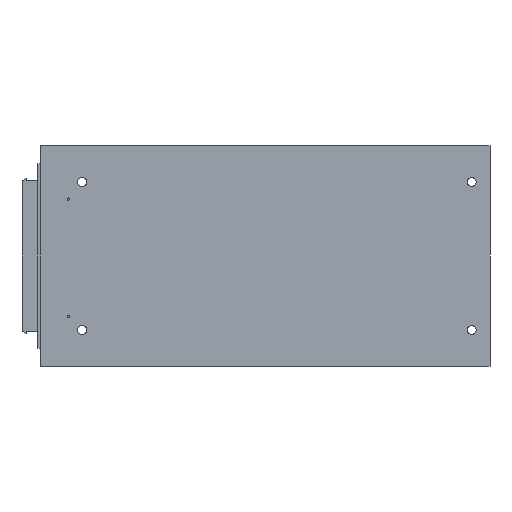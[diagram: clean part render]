
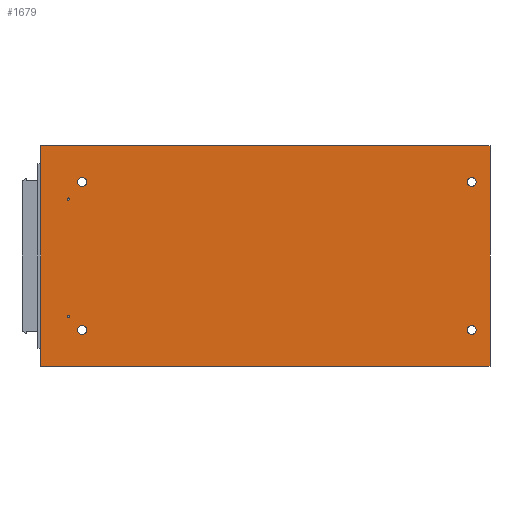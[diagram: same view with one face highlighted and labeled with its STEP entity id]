
A CAD part, front view. The second image highlights one B-rep face of the part: STEP entity #1679.
In plain terms, the highlighted planar face has unit normal (0, -1, 0).
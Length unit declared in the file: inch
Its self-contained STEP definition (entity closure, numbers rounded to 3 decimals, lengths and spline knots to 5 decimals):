
#145=DIRECTION('',(0.,0.,-1.));
#146=VECTOR('',#145,3.);
#147=CARTESIAN_POINT('',(0.,0.,0.));
#148=LINE('',#147,#146);
#149=DIRECTION('',(-1.,0.,0.));
#150=VECTOR('',#149,6.12063);
#151=CARTESIAN_POINT('',(6.12063,0.,0.));
#152=LINE('',#151,#150);
#153=DIRECTION('',(0.,0.,1.));
#154=VECTOR('',#153,3.);
#155=CARTESIAN_POINT('',(6.12063,0.,-3.));
#156=LINE('',#155,#154);
#157=DIRECTION('',(1.,0.,0.));
#158=VECTOR('',#157,6.12063);
#159=CARTESIAN_POINT('',(0.,0.,-3.));
#160=LINE('',#159,#158);
#161=CARTESIAN_POINT('',(5.87063,0.,-2.508));
#162=DIRECTION('',(0.,1.,0.));
#163=DIRECTION('',(0.,0.,-1.));
#164=AXIS2_PLACEMENT_3D('',#161,#162,#163);
#166=CARTESIAN_POINT('',(5.87063,0.,-2.508));
#167=DIRECTION('',(0.,1.,0.));
#168=DIRECTION('',(0.,0.,1.));
#169=AXIS2_PLACEMENT_3D('',#166,#167,#168);
#171=CARTESIAN_POINT('',(5.87063,0.,-0.492));
#172=DIRECTION('',(0.,1.,0.));
#173=DIRECTION('',(0.,0.,-1.));
#174=AXIS2_PLACEMENT_3D('',#171,#172,#173);
#176=CARTESIAN_POINT('',(5.87063,0.,-0.492));
#177=DIRECTION('',(0.,1.,0.));
#178=DIRECTION('',(0.,0.,1.));
#179=AXIS2_PLACEMENT_3D('',#176,#177,#178);
#181=CARTESIAN_POINT('',(0.56463,0.,-0.492));
#182=DIRECTION('',(0.,1.,0.));
#183=DIRECTION('',(0.,0.,1.));
#184=AXIS2_PLACEMENT_3D('',#181,#182,#183);
#186=CARTESIAN_POINT('',(0.56463,0.,-0.492));
#187=DIRECTION('',(0.,1.,0.));
#188=DIRECTION('',(0.,0.,-1.));
#189=AXIS2_PLACEMENT_3D('',#186,#187,#188);
#191=CARTESIAN_POINT('',(0.56463,0.,-2.508));
#192=DIRECTION('',(0.,1.,0.));
#193=DIRECTION('',(0.,0.,1.));
#194=AXIS2_PLACEMENT_3D('',#191,#192,#193);
#196=CARTESIAN_POINT('',(0.56463,0.,-2.508));
#197=DIRECTION('',(0.,1.,0.));
#198=DIRECTION('',(0.,0.,-1.));
#199=AXIS2_PLACEMENT_3D('',#196,#197,#198);
#201=CARTESIAN_POINT('',(0.375,0.,-2.325));
#202=DIRECTION('',(0.,-1.,0.));
#203=DIRECTION('',(0.,0.,-1.));
#204=AXIS2_PLACEMENT_3D('',#201,#202,#203);
#206=CARTESIAN_POINT('',(0.375,0.,-2.325));
#207=DIRECTION('',(0.,-1.,0.));
#208=DIRECTION('',(0.,0.,1.));
#209=AXIS2_PLACEMENT_3D('',#206,#207,#208);
#211=CARTESIAN_POINT('',(0.375,0.,-0.725));
#212=DIRECTION('',(0.,-1.,0.));
#213=DIRECTION('',(0.,0.,-1.));
#214=AXIS2_PLACEMENT_3D('',#211,#212,#213);
#216=CARTESIAN_POINT('',(0.375,0.,-0.725));
#217=DIRECTION('',(0.,-1.,0.));
#218=DIRECTION('',(0.,0.,1.));
#219=AXIS2_PLACEMENT_3D('',#216,#217,#218);
#1121=CARTESIAN_POINT('',(0.,0.,0.));
#1122=CARTESIAN_POINT('',(0.,0.,-3.));
#1123=VERTEX_POINT('',#1121);
#1124=VERTEX_POINT('',#1122);
#1125=CARTESIAN_POINT('',(6.12063,0.,-3.));
#1126=VERTEX_POINT('',#1125);
#1127=CARTESIAN_POINT('',(6.12063,0.,0.));
#1128=VERTEX_POINT('',#1127);
#1137=CARTESIAN_POINT('',(5.87063,0.,-2.5705));
#1138=CARTESIAN_POINT('',(5.87063,0.,-2.4455));
#1139=VERTEX_POINT('',#1137);
#1140=VERTEX_POINT('',#1138);
#1141=CARTESIAN_POINT('',(5.87063,0.,-0.5545));
#1142=CARTESIAN_POINT('',(5.87063,0.,-0.4295));
#1143=VERTEX_POINT('',#1141);
#1144=VERTEX_POINT('',#1142);
#1149=CARTESIAN_POINT('',(0.56463,0.,-0.4295));
#1150=CARTESIAN_POINT('',(0.56463,0.,-0.5545));
#1151=VERTEX_POINT('',#1149);
#1152=VERTEX_POINT('',#1150);
#1157=CARTESIAN_POINT('',(0.56463,0.,-2.4455));
#1158=CARTESIAN_POINT('',(0.56463,0.,-2.5705));
#1159=VERTEX_POINT('',#1157);
#1160=VERTEX_POINT('',#1158);
#1381=CARTESIAN_POINT('',(0.375,0.,-2.3405));
#1382=CARTESIAN_POINT('',(0.375,0.,-2.3095));
#1383=VERTEX_POINT('',#1381);
#1384=VERTEX_POINT('',#1382);
#1385=CARTESIAN_POINT('',(0.375,0.,-0.7405));
#1386=CARTESIAN_POINT('',(0.375,0.,-0.7095));
#1387=VERTEX_POINT('',#1385);
#1388=VERTEX_POINT('',#1386);
#1632=CARTESIAN_POINT('',(0.,0.,0.));
#1633=DIRECTION('',(0.,-1.,0.));
#1634=DIRECTION('',(1.,0.,0.));
#1635=AXIS2_PLACEMENT_3D('',#1632,#1633,#1634);
#1636=PLANE('',#1635);
#1637=ORIENTED_EDGE('',*,*,#1579,.F.);
#1638=ORIENTED_EDGE('',*,*,#1599,.F.);
#1639=ORIENTED_EDGE('',*,*,#1613,.F.);
#1640=ORIENTED_EDGE('',*,*,#1626,.F.);
#1641=EDGE_LOOP('',(#1637,#1638,#1639,#1640));
#1642=FACE_OUTER_BOUND('',#1641,.F.);
#1644=ORIENTED_EDGE('',*,*,#1643,.F.);
#1646=ORIENTED_EDGE('',*,*,#1645,.F.);
#1647=EDGE_LOOP('',(#1644,#1646));
#1648=FACE_BOUND('',#1647,.F.);
#1650=ORIENTED_EDGE('',*,*,#1649,.F.);
#1652=ORIENTED_EDGE('',*,*,#1651,.F.);
#1653=EDGE_LOOP('',(#1650,#1652));
#1654=FACE_BOUND('',#1653,.F.);
#1656=ORIENTED_EDGE('',*,*,#1655,.F.);
#1658=ORIENTED_EDGE('',*,*,#1657,.F.);
#1659=EDGE_LOOP('',(#1656,#1658));
#1660=FACE_BOUND('',#1659,.F.);
#1662=ORIENTED_EDGE('',*,*,#1661,.F.);
#1664=ORIENTED_EDGE('',*,*,#1663,.F.);
#1665=EDGE_LOOP('',(#1662,#1664));
#1666=FACE_BOUND('',#1665,.F.);
#1668=ORIENTED_EDGE('',*,*,#1667,.T.);
#1670=ORIENTED_EDGE('',*,*,#1669,.T.);
#1671=EDGE_LOOP('',(#1668,#1670));
#1672=FACE_BOUND('',#1671,.F.);
#1674=ORIENTED_EDGE('',*,*,#1673,.T.);
#1676=ORIENTED_EDGE('',*,*,#1675,.T.);
#1677=EDGE_LOOP('',(#1674,#1676));
#1678=FACE_BOUND('',#1677,.F.);
#1679=ADVANCED_FACE('',(#1642,#1648,#1654,#1660,#1666,#1672,#1678),#1636,.T.);
#165=CIRCLE('',#164,0.0625);
#170=CIRCLE('',#169,0.0625);
#175=CIRCLE('',#174,0.0625);
#180=CIRCLE('',#179,0.0625);
#185=CIRCLE('',#184,0.0625);
#190=CIRCLE('',#189,0.0625);
#195=CIRCLE('',#194,0.0625);
#200=CIRCLE('',#199,0.0625);
#205=CIRCLE('',#204,0.0155);
#210=CIRCLE('',#209,0.0155);
#215=CIRCLE('',#214,0.0155);
#220=CIRCLE('',#219,0.0155);
#1579=EDGE_CURVE('',#1123,#1124,#148,.T.);
#1599=EDGE_CURVE('',#1128,#1123,#152,.T.);
#1613=EDGE_CURVE('',#1126,#1128,#156,.T.);
#1626=EDGE_CURVE('',#1124,#1126,#160,.T.);
#1643=EDGE_CURVE('',#1139,#1140,#165,.T.);
#1645=EDGE_CURVE('',#1140,#1139,#170,.T.);
#1649=EDGE_CURVE('',#1143,#1144,#175,.T.);
#1651=EDGE_CURVE('',#1144,#1143,#180,.T.);
#1655=EDGE_CURVE('',#1151,#1152,#185,.T.);
#1657=EDGE_CURVE('',#1152,#1151,#190,.T.);
#1661=EDGE_CURVE('',#1159,#1160,#195,.T.);
#1663=EDGE_CURVE('',#1160,#1159,#200,.T.);
#1667=EDGE_CURVE('',#1383,#1384,#205,.T.);
#1669=EDGE_CURVE('',#1384,#1383,#210,.T.);
#1673=EDGE_CURVE('',#1387,#1388,#215,.T.);
#1675=EDGE_CURVE('',#1388,#1387,#220,.T.);
